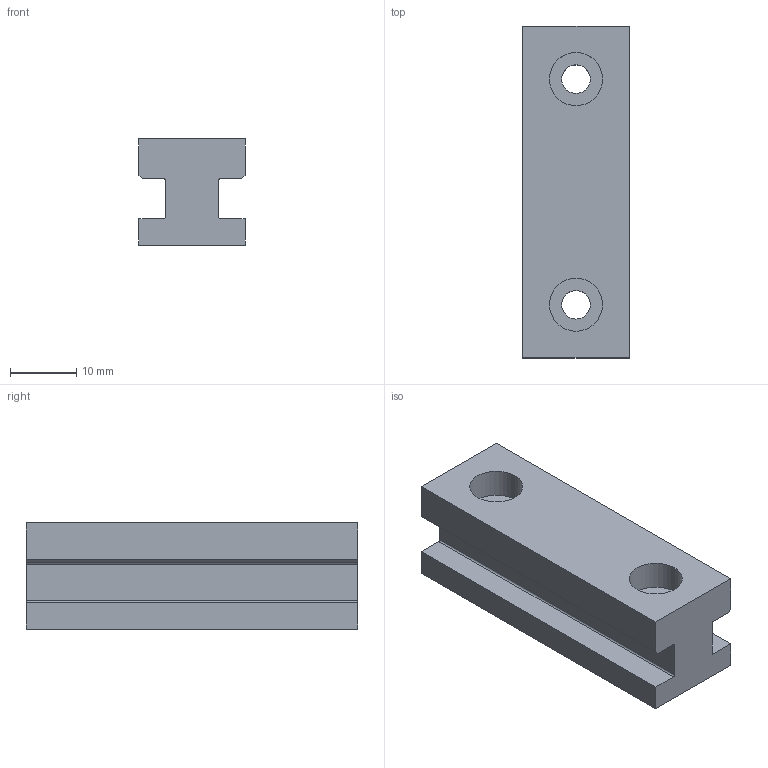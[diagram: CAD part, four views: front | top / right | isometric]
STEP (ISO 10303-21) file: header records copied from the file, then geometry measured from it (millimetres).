
FILE_DESCRIPTION (( 'STEP AP214' ), '1' );
FILE_NAME ('Schieberführung Mitte_-_16 x 16 L=50.step', '2024-01-10T12:53:20', ( '' ), ( '' ), 'SwSTEP 2.0', 'SolidWorks 2020', '' );
FILE_SCHEMA (( 'AUTOMOTIVE_DESIGN' ));
Length unit declared in the file: millimetre
Products named in the file (1): Schieberführung Mitte_-_16 x 16 L=50
Bounding box: 16 x 50 x 16 mm (x, y, z)
Volume: 9610.5 mm3; surface area: 4846.7 mm2
Topology: 1 solids, 1 shells, 140 faces, 369 edges, 246 vertices
Faces by surface type: plane 77, bspline 55, cylinder 8
Full cylindrical faces by diameter (mm): 4.3 x2, 8 x2
Entity records: 7077 total; most frequent: CARTESIAN_POINT 3943, ORIENTED_EDGE 730, DIRECTION 443, EDGE_CURVE 365, VERTEX_POINT 246, LINE 239, VECTOR 239, EDGE_LOOP 163
